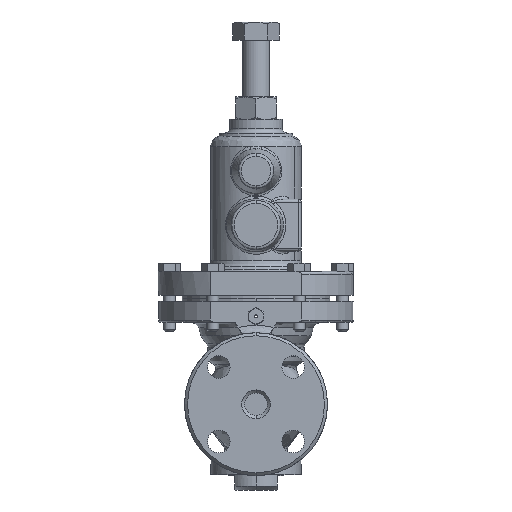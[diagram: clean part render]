
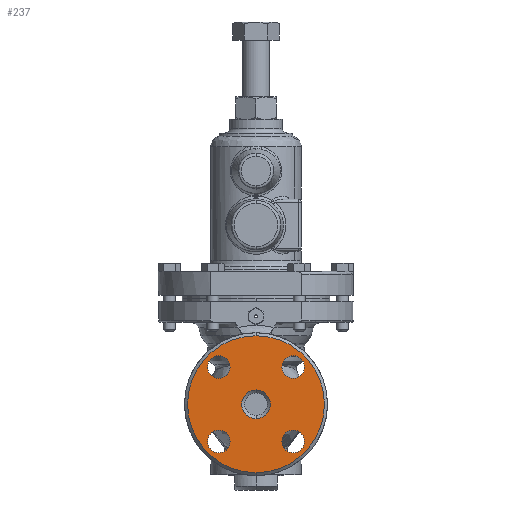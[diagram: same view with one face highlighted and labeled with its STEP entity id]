
A CAD part, left-side view. The second image highlights one B-rep face of the part: STEP entity #237.
In plain terms, the highlighted planar face has unit normal (-1, 0, 0).
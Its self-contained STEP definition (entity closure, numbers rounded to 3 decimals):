
#237=ADVANCED_FACE('',(#1545,#1546,#1547,#1548,#1549,#1550),#1544,.F.);
#1544=PLANE('',#7287);
#1545=FACE_OUTER_BOUND('',#7288,.T.);
#1546=FACE_BOUND('',#7289,.T.);
#1547=FACE_BOUND('',#7290,.T.);
#1548=FACE_BOUND('',#7291,.T.);
#1549=FACE_BOUND('',#7292,.T.);
#1550=FACE_BOUND('',#7293,.T.);
#7284=CARTESIAN_POINT('',(-72.5,-88.808,55.5));
#7285=DIRECTION('',(1.,0.,0.));
#7286=DIRECTION('',(0.,0.,-1.));
#7287=AXIS2_PLACEMENT_3D('',#7284,#7285,#7286);
#7288=EDGE_LOOP('',(#18542,#18543));
#7289=EDGE_LOOP('',(#18544,#18545));
#7290=EDGE_LOOP('',(#18546,#18547));
#7291=EDGE_LOOP('',(#18548,#18549));
#7292=EDGE_LOOP('',(#18550,#18551));
#7293=EDGE_LOOP('',(#18552,#18553));
#18542=ORIENTED_EDGE('',*,*,#20916,.T.);
#18543=ORIENTED_EDGE('',*,*,#20917,.T.);
#18544=ORIENTED_EDGE('',*,*,#20918,.F.);
#18545=ORIENTED_EDGE('',*,*,#20919,.F.);
#18546=ORIENTED_EDGE('',*,*,#20920,.F.);
#18547=ORIENTED_EDGE('',*,*,#20921,.F.);
#18548=ORIENTED_EDGE('',*,*,#20922,.F.);
#18549=ORIENTED_EDGE('',*,*,#20923,.F.);
#18550=ORIENTED_EDGE('',*,*,#20924,.F.);
#18551=ORIENTED_EDGE('',*,*,#20925,.F.);
#18552=ORIENTED_EDGE('',*,*,#20926,.F.);
#18553=ORIENTED_EDGE('',*,*,#20927,.F.);
#20916=EDGE_CURVE('',#24463,#24464,#24465,.T.);
#20917=EDGE_CURVE('',#24464,#24463,#24471,.T.);
#20918=EDGE_CURVE('',#24477,#24478,#24479,.T.);
#20919=EDGE_CURVE('',#24478,#24477,#24485,.T.);
#20920=EDGE_CURVE('',#24491,#24492,#24493,.T.);
#20921=EDGE_CURVE('',#24492,#24491,#24499,.T.);
#20922=EDGE_CURVE('',#24505,#24506,#24507,.T.);
#20923=EDGE_CURVE('',#24506,#24505,#24513,.T.);
#20924=EDGE_CURVE('',#24519,#24520,#24521,.T.);
#20925=EDGE_CURVE('',#24520,#24519,#24527,.T.);
#20926=EDGE_CURVE('',#24533,#24534,#24535,.T.);
#20927=EDGE_CURVE('',#24534,#24533,#24541,.T.);
#24463=VERTEX_POINT('',#33200);
#24464=VERTEX_POINT('',#33201);
#24465=CIRCLE('',#33205,45.5);
#24471=CIRCLE('',#33209,45.5);
#24477=VERTEX_POINT('',#33210);
#24478=VERTEX_POINT('',#33211);
#24479=CIRCLE('',#33215,7.5);
#24485=CIRCLE('',#33219,7.5);
#24491=VERTEX_POINT('',#33220);
#24492=VERTEX_POINT('',#33221);
#24493=CIRCLE('',#33225,7.5);
#24499=CIRCLE('',#33229,7.5);
#24505=VERTEX_POINT('',#33230);
#24506=VERTEX_POINT('',#33231);
#24507=CIRCLE('',#33235,7.5);
#24513=CIRCLE('',#33239,7.5);
#24519=VERTEX_POINT('',#33240);
#24520=VERTEX_POINT('',#33241);
#24521=CIRCLE('',#33245,9.5);
#24527=CIRCLE('',#33249,9.5);
#24533=VERTEX_POINT('',#33250);
#24534=VERTEX_POINT('',#33251);
#24535=CIRCLE('',#33255,7.5);
#24541=CIRCLE('',#33259,7.5);
#33200=CARTESIAN_POINT('',(-72.5,0.,45.5));
#33201=CARTESIAN_POINT('',(-72.5,0.,-45.5));
#33202=CARTESIAN_POINT('',(-72.5,0.,0.));
#33203=DIRECTION('',(-1.,0.,0.));
#33204=DIRECTION('',(0.,0.,1.));
#33205=AXIS2_PLACEMENT_3D('',#33202,#33203,#33204);
#33206=CARTESIAN_POINT('',(-72.5,0.,0.));
#33207=DIRECTION('',(-1.,0.,0.));
#33208=DIRECTION('',(0.,0.,1.));
#33209=AXIS2_PLACEMENT_3D('',#33206,#33207,#33208);
#33210=CARTESIAN_POINT('',(-72.5,24.749,-17.249));
#33211=CARTESIAN_POINT('',(-72.5,24.749,-32.249));
#33212=CARTESIAN_POINT('',(-72.5,24.749,-24.749));
#33213=DIRECTION('',(-1.,0.,0.));
#33214=DIRECTION('',(0.,0.,-1.));
#33215=AXIS2_PLACEMENT_3D('',#33212,#33213,#33214);
#33216=CARTESIAN_POINT('',(-72.5,24.749,-24.749));
#33217=DIRECTION('',(-1.,0.,0.));
#33218=DIRECTION('',(0.,0.,-1.));
#33219=AXIS2_PLACEMENT_3D('',#33216,#33217,#33218);
#33220=CARTESIAN_POINT('',(-72.5,-24.749,-17.249));
#33221=CARTESIAN_POINT('',(-72.5,-24.749,-32.249));
#33222=CARTESIAN_POINT('',(-72.5,-24.749,-24.749));
#33223=DIRECTION('',(-1.,0.,0.));
#33224=DIRECTION('',(0.,0.,-1.));
#33225=AXIS2_PLACEMENT_3D('',#33222,#33223,#33224);
#33226=CARTESIAN_POINT('',(-72.5,-24.749,-24.749));
#33227=DIRECTION('',(-1.,0.,0.));
#33228=DIRECTION('',(0.,0.,-1.));
#33229=AXIS2_PLACEMENT_3D('',#33226,#33227,#33228);
#33230=CARTESIAN_POINT('',(-72.5,-24.749,32.249));
#33231=CARTESIAN_POINT('',(-72.5,-24.749,17.249));
#33232=CARTESIAN_POINT('',(-72.5,-24.749,24.749));
#33233=DIRECTION('',(-1.,0.,0.));
#33234=DIRECTION('',(0.,0.,-1.));
#33235=AXIS2_PLACEMENT_3D('',#33232,#33233,#33234);
#33236=CARTESIAN_POINT('',(-72.5,-24.749,24.749));
#33237=DIRECTION('',(-1.,0.,0.));
#33238=DIRECTION('',(0.,0.,-1.));
#33239=AXIS2_PLACEMENT_3D('',#33236,#33237,#33238);
#33240=CARTESIAN_POINT('',(-72.5,0.,-9.5));
#33241=CARTESIAN_POINT('',(-72.5,0.,9.5));
#33242=CARTESIAN_POINT('',(-72.5,0.,0.));
#33243=DIRECTION('',(-1.,0.,0.));
#33244=DIRECTION('',(0.,0.,1.));
#33245=AXIS2_PLACEMENT_3D('',#33242,#33243,#33244);
#33246=CARTESIAN_POINT('',(-72.5,0.,0.));
#33247=DIRECTION('',(-1.,0.,0.));
#33248=DIRECTION('',(0.,0.,1.));
#33249=AXIS2_PLACEMENT_3D('',#33246,#33247,#33248);
#33250=CARTESIAN_POINT('',(-72.5,24.749,32.249));
#33251=CARTESIAN_POINT('',(-72.5,24.749,17.249));
#33252=CARTESIAN_POINT('',(-72.5,24.749,24.749));
#33253=DIRECTION('',(-1.,0.,0.));
#33254=DIRECTION('',(0.,0.,-1.));
#33255=AXIS2_PLACEMENT_3D('',#33252,#33253,#33254);
#33256=CARTESIAN_POINT('',(-72.5,24.749,24.749));
#33257=DIRECTION('',(-1.,0.,0.));
#33258=DIRECTION('',(0.,0.,-1.));
#33259=AXIS2_PLACEMENT_3D('',#33256,#33257,#33258);
